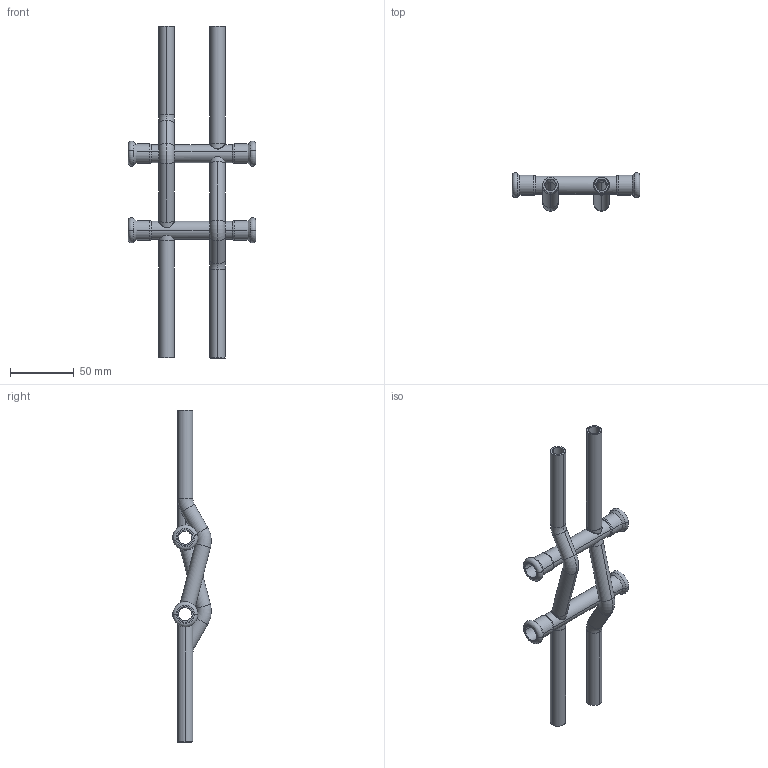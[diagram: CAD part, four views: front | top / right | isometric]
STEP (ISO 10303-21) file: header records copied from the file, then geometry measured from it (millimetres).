
FILE_DESCRIPTION(('CoCreate Modeling STEP Export'),'2;1');
FILE_NAME('C1436 12x12.stp','2015-08-11T13:12:20',(''),(''),'CoCreate Modeling STEP processor for AP214 (Solid Model)','CoCreate Modeling 17.00A 17-Jun-2010 (C) Parametric Technology GmbH','');
FILE_SCHEMA(('AUTOMOTIVE_DESIGN { 1 0 10303 214 1 1 1 1 }'));
Length unit declared in the file: millimetre
Products named in the file (6): 620845.5.1.1; 620855.4.1.1.1.1; 620865.3.1.1; 620865.3.2; 620855.4.1.1.2; C1436-12x12
Assembly tree (6 placements, depth 2):
  C1436-12x12
    620855.4.1.1.2
    620865.3.2
    620865.3.1.1
    620855.4.1.1.1.1
    620845.5.1.1  x2
Bounding box: 100 x 30.16 x 260 mm (x, y, z)
Volume: 38939 mm3; surface area: 50793.3 mm2
Topology: 6 solids, 6 shells, 164 faces, 352 edges, 212 vertices
Faces by surface type: cylinder 80, torus 32, plane 24, cone 24, bspline 4
Entity records: 10695 total; most frequent: CARTESIAN_POINT 7623, ORIENTED_EDGE 664, DIRECTION 534, EDGE_CURVE 332, AXIS2_PLACEMENT_3D 219, VERTEX_POINT 200, EDGE_LOOP 184, FACE_OUTER_BOUND 154
